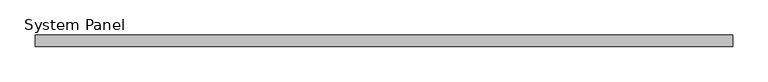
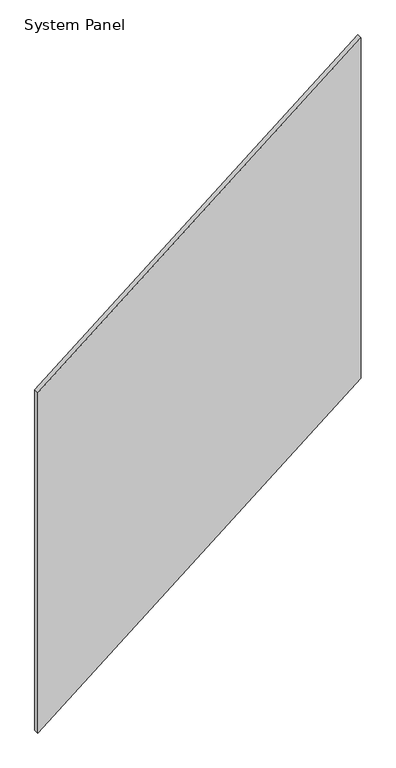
"""IFC4 building model written with IfcOpenShell, lengths in millimetres: plate geometry, System Panel : GUARDA-CORPO DE VIDRO TEMPERADO LAMINADO LISO 16 mm."""

from ifc_helpers import new_model, si_unit, frame, origin, place, context, project, spatial, polyline, outline, extrude, source, transform, mapped, element, save


def system_panel_ac3673e6(model_context):
    return source(origin(), model_context, "Body", "SweptSolid", [
        extrude(outline(polyline([(0.0, -493.9588626), (800.0, 493.9588626), (1900.0, 493.9588626), (1100.0, -493.9588626), (0.0, -493.9588626)])), frame((0.0, -8.0, 0.0), z_axis=(0.0, 1.0, 0.0), x_axis=(0.0, 0.0, 1.0)), (0.0, 0.0, 1.0), 16.0),
    ])


if __name__ == "__main__":
    model = new_model("IFC4")
    model_context = context("Model", 3, world=origin())
    ifc_project = project(units=[si_unit("LENGTHUNIT", "METRE", prefix="MILLI")], contexts=[model_context])
    site = spatial("IfcSite", under=ifc_project)
    building = spatial("IfcBuilding", under=site)
    placement = place(None, origin())
    system_panel_shape = system_panel_ac3673e6(model_context)
    element("IfcPlate", 1, ObjectType="System Panel : GUARDA-CORPO DE VIDRO TEMPERADO LAMINADO LISO 16 mm", at=placement, inside=building, context=model_context, shape_type="MappedRepresentation", body=[
        mapped(system_panel_shape, transform((0.0, 0.0, 0.0), x_axis=(1.0, 0.0, 0.0), y_axis=(0.0, 1.0, 0.0), z_axis=(0.0, 0.0, 1.0))),
    ])
    save(model, "model.ifc")
